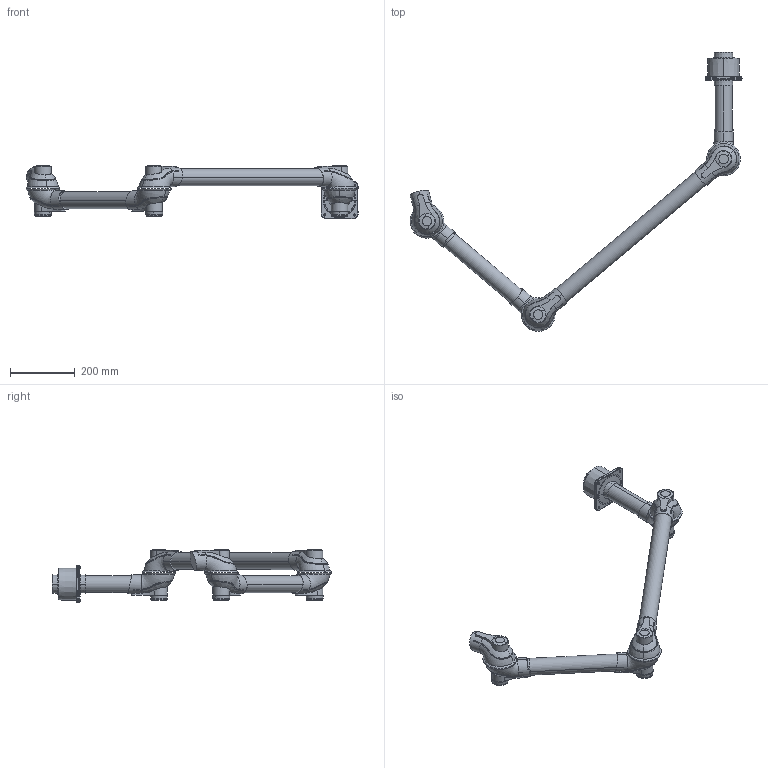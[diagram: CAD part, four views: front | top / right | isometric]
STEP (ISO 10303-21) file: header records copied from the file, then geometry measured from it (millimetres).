
FILE_DESCRIPTION((''),'2;1');
FILE_NAME('102180','2015-10-01T',('Tomas Bellgran'),(''),'PRO/ENGINEER BY PARAMETRIC TECHNOLOGY CORPORATION, 2013410','PRO/ENGINEER BY PARAMETRIC TECHNOLOGY CORPORATION, 2013410','');
FILE_SCHEMA(('AUTOMOTIVE_DESIGN { 1 0 10303 214 1 1 1 1 }'));
Length unit declared in the file: millimetre
Products named in the file (12): 100350; 102161; 102200; 102176; 102160; 102175; 102162; 102168; 105-5481; 101156; 102177; 102180
Assembly tree (18 placements, depth 4):
  102180
    102176
      100350
      102161
      102200
    102175
      102200  x2
      102160
    102168
      102162
      102200
    102177
      102200  x2
      101156
        105-5481
    101156  x2
      105-5481
Bounding box: 1028.65 x 864.49 x 164.28 mm (x, y, z)
Volume: 6328829.2 mm3; surface area: 540051.3 mm2
Topology: 13 solids, 13 shells, 644 faces, 1546 edges, 945 vertices
Faces by surface type: bspline 240, plane 178, cone 111, cylinder 66, torus 28, sphere 21
Entity records: 27630 total; most frequent: CARTESIAN_POINT 13711, ORIENTED_EDGE 1500, DIRECTION 1036, PRESENTATION_STYLE_ASSIGNMENT 1033, STYLED_ITEM 1033, CURVE_STYLE 750, EDGE_CURVE 750, PROPERTY_DEFINITION 542
